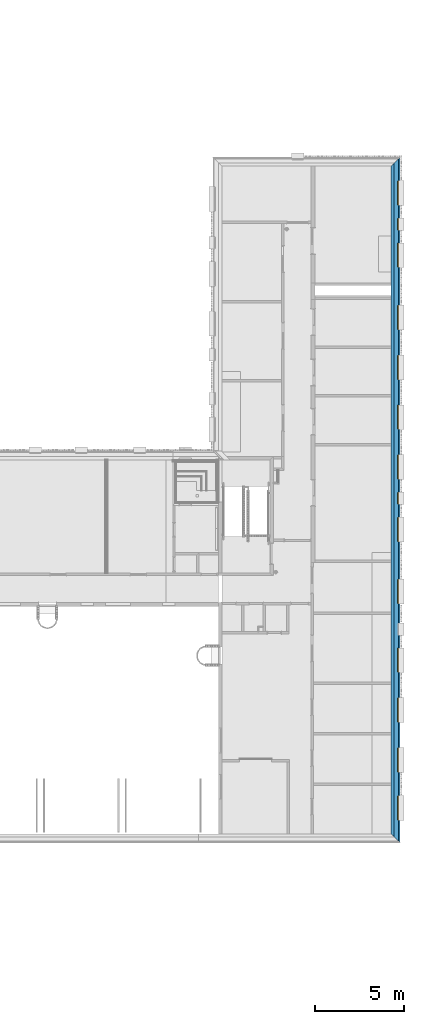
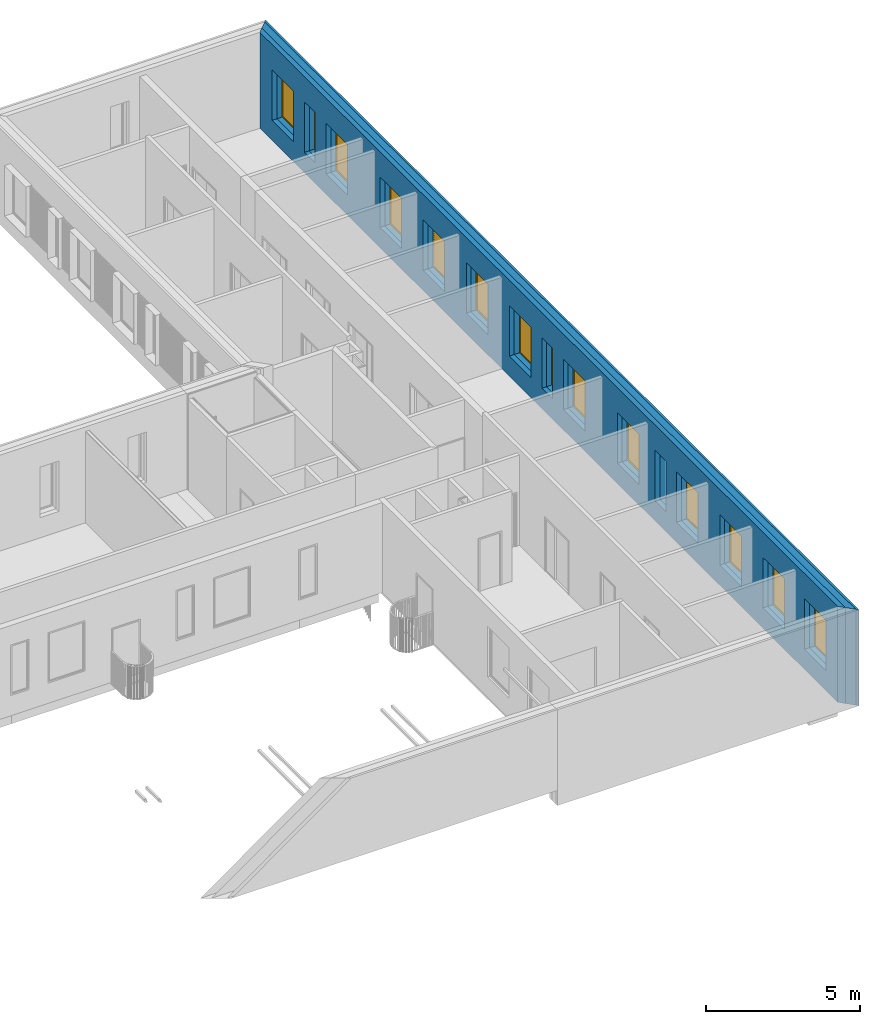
# One storey, part 40 of 100: 14 windows, 3 building element parts, 15 openings, 1 element without a shape of its own.
"""IFC2X3 building model written with IfcOpenShell, lengths in millimetres."""

from ifc_helpers import new_model, entity, si_unit, converted_unit, derived_unit, money_unit, direction, frame, origin_with_axes, origin_2d_with_axis, place, context, subcontext, project, spatial, polyline, rectangle, outline, extrude, open_shell, faceted_brep, surface_model, source, transform, mapped, material, type_object, element, fill, aggregate, save


model = new_model("IFC2X3")

# Units and contexts
model_context = context("Model", 3, precision=0.01, world=origin_with_axes(), true_north=direction((0.0, 1.0)))
body_context = subcontext(model_context, "Body", "Model", "MODEL_VIEW")
ifc_project = project(units=[si_unit("LENGTHUNIT", "METRE", prefix="MILLI"), si_unit("AREAUNIT", "SQUARE_METRE"), si_unit("VOLUMEUNIT", "CUBIC_METRE"), converted_unit("PLANEANGLEUNIT", "DEGREE", entity("IfcPlaneAngleMeasure", 0.0174532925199), si_unit("PLANEANGLEUNIT", "RADIAN"), dimensions=[0, 0, 0, 0, 0, 0, 0]), si_unit("SOLIDANGLEUNIT", "STERADIAN"), money_unit("EUR"), converted_unit("TIMEUNIT", "Year", entity("IfcTimeMeasure", 31556926.0), si_unit("TIMEUNIT", "SECOND"), dimensions=[0, 0, 1, 0, 0, 0, 0]), si_unit("MASSUNIT", "GRAM", prefix="KILO"), si_unit("THERMODYNAMICTEMPERATUREUNIT", "DEGREE_CELSIUS"), si_unit("LUMINOUSINTENSITYUNIT", "LUMEN"), si_unit("ENERGYUNIT", "JOULE", prefix="MEGA"), derived_unit("THERMALCONDUCTANCEUNIT", [(si_unit("POWERUNIT", "WATT"), 1), (si_unit("LENGTHUNIT", "METRE"), -1), (si_unit("THERMODYNAMICTEMPERATUREUNIT", "KELVIN"), -1)]), derived_unit("SPECIFICHEATCAPACITYUNIT", [(si_unit("ENERGYUNIT", "JOULE"), 1), (si_unit("MASSUNIT", "GRAM", prefix="KILO"), -1), (si_unit("THERMODYNAMICTEMPERATUREUNIT", "KELVIN"), -1)]), derived_unit("MASSDENSITYUNIT", [(si_unit("MASSUNIT", "GRAM", prefix="KILO"), 1), (si_unit("VOLUMEUNIT", "CUBIC_METRE"), -1)])], contexts=[model_context])

# Site, building, storey
site_placement = place(None, origin_with_axes())
site = spatial("IfcSite", under=ifc_project, at=site_placement, Name="Politse- ja Piirivalveameti ning Päästeameti ühishoone", CompositionType="ELEMENT")
building_placement = place(site_placement, origin_with_axes())
building = spatial("IfcBuilding", under=site, at=building_placement, Name="Politse- ja Piirivalveameti ning Päästeameti ühishoone", CompositionType="ELEMENT")
storey_placement = place(building_placement, frame((0.0, 0.0, 3800.0), z_axis=(0.0, 0.0, 1.0), x_axis=(1.0, 0.0, 0.0)))
storey = spatial("IfcBuildingStorey", under=building, at=storey_placement, Name="Teine korrus", CompositionType="ELEMENT", Elevation=3800.0)

# Window
window_style_1 = type_object("IfcWindowStyle", Name="Window 23", ConstructionType="NOTDEFINED", OperationType="SINGLE_PANEL", ParameterTakesPrecedence=False, Sizeable=False)
shared_shape_1 = source(origin_with_axes(), body_context, "Body", "SurfaceModel", [
    faceted_brep([(-675.0, 0.0, 1950.0), (-700.0, 0.0, 1950.0), (-700.0, -50.0, 1950.0), (-650.0, -50.0, 1950.0), (-650.0, -25.0, 1950.0), (-675.0, -25.0, 1950.0), (-675.0, 0.0, 50.0), (-700.0, 0.0, 50.0), (-700.0, -50.0, 50.0), (-650.0, -50.0, 50.0), (-650.0, -25.0, 50.0), (-675.0, -25.0, 50.0)], [[[0, 1, 2, 3, 4, 5]], [[6, 7, 1, 0]], [[1, 7, 8, 2]], [[2, 8, 9, 3]], [[4, 3, 9, 10]], [[10, 11, 5, 4]], [[5, 11, 6, 0]], [[11, 10, 9, 8, 7, 6]]]),
    faceted_brep([(650.0, -25.0, 1950.0), (650.0, -50.0, 1950.0), (700.0, -50.0, 1950.0), (700.0, 0.0, 1950.0), (675.0, 0.0, 1950.0), (675.0, -25.0, 1950.0), (650.0, -25.0, 50.0), (650.0, -50.0, 50.0), (700.0, -50.0, 50.0), (700.0, 0.0, 50.0), (675.0, 0.0, 50.0), (675.0, -25.0, 50.0)], [[[0, 1, 2, 3, 4, 5]], [[6, 7, 1, 0]], [[8, 2, 1, 7]], [[9, 3, 2, 8]], [[4, 3, 9, 10]], [[10, 11, 5, 4]], [[5, 11, 6, 0]], [[11, 10, 9, 8, 7, 6]]]),
    faceted_brep([(650.0, -25.0, 50.0), (650.0, -50.0, 50.0), (700.0, -50.0, 50.0), (700.0, 0.0, 50.0), (675.0, 0.0, 50.0), (675.0, -25.0, 50.0), (-650.0, -25.0, 50.0), (-650.0, -50.0, 50.0), (-700.0, -50.0, 50.0), (-700.0, -50.0, 0.0), (700.0, -50.0, 0.0), (700.0, 0.0, 0.0), (-675.0, 0.0, 25.0), (675.0, 0.0, 25.0), (-700.0, 0.0, 0.0), (-700.0, 0.0, 50.0), (-675.0, 0.0, 50.0), (675.0, -25.0, 25.0), (-675.0, -25.0, 25.0), (-675.0, -25.0, 50.0)], [[[0, 1, 2, 3, 4, 5]], [[6, 7, 1, 0]], [[8, 9, 10, 2, 1, 7]], [[11, 3, 2, 10]], [[12, 13, 4, 3, 11, 14, 15, 16]], [[13, 17, 5, 4]], [[5, 17, 18, 19, 6, 0]], [[19, 16, 15, 8, 7, 6]], [[15, 14, 9, 8]], [[14, 11, 10, 9]], [[12, 18, 17, 13]], [[19, 18, 12, 16]]]),
    faceted_brep([(-675.0, 0.0, 1950.0), (-700.0, 0.0, 1950.0), (-700.0, 0.0, 2000.0), (700.0, 0.0, 2000.0), (700.0, 0.0, 1950.0), (675.0, 0.0, 1950.0), (675.0, 0.0, 1975.0), (-675.0, 0.0, 1975.0), (-675.0, -25.0, 1950.0), (-650.0, -25.0, 1950.0), (-650.0, -50.0, 1950.0), (-700.0, -50.0, 1950.0), (-700.0, -50.0, 2000.0), (700.0, -50.0, 2000.0), (700.0, -50.0, 1950.0), (675.0, -25.0, 1950.0), (650.0, -50.0, 1950.0), (650.0, -25.0, 1950.0), (675.0, -25.0, 1975.0), (-675.0, -25.0, 1975.0)], [[[0, 1, 2, 3, 4, 5, 6, 7]], [[8, 9, 10, 11, 1, 0]], [[2, 1, 11, 12]], [[3, 2, 12, 13]], [[4, 3, 13, 14]], [[15, 5, 4, 14, 16, 17]], [[5, 15, 18, 6]], [[6, 18, 19, 7]], [[7, 19, 8, 0]], [[17, 9, 8, 19, 18, 15]], [[17, 16, 10, 9]], [[14, 13, 12, 11, 10, 16]]]),
    faceted_brep([(-625.0, -25.0, 1925.0), (-625.0, 25.0, 1925.0), (-675.0, 25.0, 1925.0), (-675.0, -25.0, 1925.0), (-625.0, -25.0, 75.0), (-625.0, 25.0, 75.0), (-675.0, 25.0, 75.0), (-675.0, -25.0, 75.0)], [[[0, 1, 2, 3]], [[4, 5, 1, 0]], [[1, 5, 6, 2]], [[3, 2, 6, 7]], [[0, 3, 7, 4]], [[7, 6, 5, 4]]]),
    faceted_brep([(625.0, -25.0, 75.0), (625.0, 25.0, 75.0), (675.0, 25.0, 75.0), (675.0, -25.0, 75.0), (625.0, -25.0, 1925.0), (625.0, 25.0, 1925.0), (675.0, 25.0, 1925.0), (675.0, -25.0, 1925.0)], [[[0, 1, 2, 3]], [[4, 5, 1, 0]], [[1, 5, 6, 2]], [[3, 2, 6, 7]], [[0, 3, 7, 4]], [[7, 6, 5, 4]]]),
    faceted_brep([(675.0, -25.0, 25.0), (675.0, 25.0, 25.0), (675.0, 25.0, 75.0), (675.0, -25.0, 75.0), (-675.0, -25.0, 25.0), (-675.0, 25.0, 25.0), (-675.0, 25.0, 75.0), (-625.0, 25.0, 75.0), (625.0, 25.0, 75.0), (625.0, -25.0, 75.0), (-625.0, -25.0, 75.0), (-675.0, -25.0, 75.0)], [[[0, 1, 2, 3]], [[4, 5, 1, 0]], [[1, 5, 6, 7, 8, 2]], [[3, 2, 8, 9]], [[0, 3, 9, 10, 11, 4]], [[11, 6, 5, 4]], [[10, 7, 6, 11]], [[9, 8, 7, 10]]]),
    faceted_brep([(-675.0, -25.0, 1975.0), (-675.0, 25.0, 1975.0), (-675.0, 25.0, 1925.0), (-675.0, -25.0, 1925.0), (675.0, -25.0, 1975.0), (675.0, 25.0, 1975.0), (675.0, 25.0, 1925.0), (625.0, 25.0, 1925.0), (-625.0, 25.0, 1925.0), (-625.0, -25.0, 1925.0), (625.0, -25.0, 1925.0), (675.0, -25.0, 1925.0)], [[[0, 1, 2, 3]], [[4, 5, 1, 0]], [[1, 5, 6, 7, 8, 2]], [[3, 2, 8, 9]], [[0, 3, 9, 10, 11, 4]], [[11, 6, 5, 4]], [[10, 7, 6, 11]], [[9, 8, 7, 10]]]),
    surface_model("IfcShellBasedSurfaceModel", [(-625.0, -10.0, 75.0), (625.0, -10.0, 75.0), (625.0, -10.0, 1925.0), (-625.0, -10.0, 1925.0)], [open_shell([[[0, 1, 2, 3]]])]),
    surface_model("IfcShellBasedSurfaceModel", [(-625.0, 10.0, 75.0), (-625.0, 10.0, 1925.0), (625.0, 10.0, 1925.0), (625.0, 10.0, 75.0)], [open_shell([[[0, 1, 2, 3]]])]),
])
wall_placement = place(storey_placement, frame((69660.5664257, 37499.9521318, 0.0), z_axis=(0.0, 0.0, 1.0), x_axis=(0.0, -1.0, 0.0)))
opening_1_placement = place(wall_placement, frame((8499.88188769, 0.0, 800.0), z_axis=(0.0, 0.0, 1.0), x_axis=(1.0, 0.0, 0.0)))
window_1_placement = place(opening_1_placement, frame((700.0, 0.0, 0.0), z_axis=(0.0, 0.0, 1.0), x_axis=(-1.0, 0.0, 0.0)))
window_1 = element("IfcWindow", 1, at=window_1_placement, inside=storey, type_object=window_style_1, Name="A-02", ObjectType="WINDOW", OverallHeight=2000.0, OverallWidth=1400.0, context=body_context, shape_type="MappedRepresentation", body=[
    mapped(shared_shape_1, transform((700.0, -380.0, 0.0))),
])

opening_2_placement = place(wall_placement, frame((11299.8818877, 0.0, 800.0), z_axis=(0.0, 0.0, 1.0), x_axis=(1.0, 0.0, 0.0)))
window_2_placement = place(opening_2_placement, frame((700.0, 0.0, 0.0), z_axis=(0.0, 0.0, 1.0), x_axis=(-1.0, 0.0, 0.0)))
window_2 = element("IfcWindow", 2, at=window_2_placement, inside=storey, type_object=window_style_1, Name="A-02", ObjectType="WINDOW", OverallHeight=2000.0, OverallWidth=1400.0, context=body_context, shape_type="MappedRepresentation", body=[
    mapped(shared_shape_1, transform((700.0, -380.0, 0.0))),
])

opening_3_placement = place(wall_placement, frame((16899.8818877, 0.0, 800.0), z_axis=(0.0, 0.0, 1.0), x_axis=(1.0, 0.0, 0.0)))
window_3_placement = place(opening_3_placement, frame((700.0, 0.0, 0.0), z_axis=(0.0, 0.0, 1.0), x_axis=(-1.0, 0.0, 0.0)))
window_3 = element("IfcWindow", 3, at=window_3_placement, inside=storey, type_object=window_style_1, Name="A-02", ObjectType="WINDOW", OverallHeight=2000.0, OverallWidth=1400.0, context=body_context, shape_type="MappedRepresentation", body=[
    mapped(shared_shape_1, transform((700.0, -380.0, 0.0))),
])

opening_4_placement = place(wall_placement, frame((14099.8818877, 0.0, 800.0), z_axis=(0.0, 0.0, 1.0), x_axis=(1.0, 0.0, 0.0)))
window_4_placement = place(opening_4_placement, frame((700.0, 0.0, 0.0), z_axis=(0.0, 0.0, 1.0), x_axis=(-1.0, 0.0, 0.0)))
window_4 = element("IfcWindow", 4, at=window_4_placement, inside=storey, type_object=window_style_1, Name="A-02", ObjectType="WINDOW", OverallHeight=2000.0, OverallWidth=1400.0, context=body_context, shape_type="MappedRepresentation", body=[
    mapped(shared_shape_1, transform((700.0, -380.0, 0.0))),
])

opening_5_placement = place(wall_placement, frame((23900.0000486, 0.0, 800.0), z_axis=(0.0, 0.0, 1.0), x_axis=(1.0, 0.0, 0.0)))
window_5_placement = place(opening_5_placement, frame((700.0, 0.0, 0.0), z_axis=(0.0, 0.0, 1.0), x_axis=(-1.0, 0.0, 0.0)))
window_5 = element("IfcWindow", 5, at=window_5_placement, inside=storey, type_object=window_style_1, Name="A-02", ObjectType="WINDOW", OverallHeight=2000.0, OverallWidth=1400.0, context=body_context, shape_type="MappedRepresentation", body=[
    mapped(shared_shape_1, transform((700.0, -380.0, 0.0))),
])

opening_6_placement = place(wall_placement, frame((27750.0000486, 0.0, 800.0), z_axis=(0.0, 0.0, 1.0), x_axis=(1.0, 0.0, 0.0)))
window_6_placement = place(opening_6_placement, frame((700.0, 0.0, 0.0), z_axis=(0.0, 0.0, 1.0), x_axis=(-1.0, 0.0, 0.0)))
window_6 = element("IfcWindow", 6, at=window_6_placement, inside=storey, type_object=window_style_1, Name="A-02", ObjectType="WINDOW", OverallHeight=2000.0, OverallWidth=1400.0, context=body_context, shape_type="MappedRepresentation", body=[
    mapped(shared_shape_1, transform((700.0, -380.0, 0.0))),
])

opening_7_placement = place(wall_placement, frame((30550.0000486, 0.0, 800.0), z_axis=(0.0, 0.0, 1.0), x_axis=(1.0, 0.0, 0.0)))
window_7_placement = place(opening_7_placement, frame((700.0, 0.0, 0.0), z_axis=(0.0, 0.0, 1.0), x_axis=(-1.0, 0.0, 0.0)))
window_7 = element("IfcWindow", 7, at=window_7_placement, inside=storey, type_object=window_style_1, Name="A-02", ObjectType="WINDOW", OverallHeight=2000.0, OverallWidth=1400.0, context=body_context, shape_type="MappedRepresentation", body=[
    mapped(shared_shape_1, transform((700.0, -380.0, 0.0))),
])

opening_8_placement = place(wall_placement, frame((36050.0000486, 0.0, 800.0), z_axis=(0.0, 0.0, 1.0), x_axis=(1.0, 0.0, 0.0)))
window_8_placement = place(opening_8_placement, frame((700.0, 0.0, 0.0), z_axis=(0.0, 0.0, 1.0), x_axis=(-1.0, 0.0, 0.0)))
window_8 = element("IfcWindow", 8, at=window_8_placement, inside=storey, type_object=window_style_1, Name="A-02", ObjectType="WINDOW", OverallHeight=2000.0, OverallWidth=1400.0, context=body_context, shape_type="MappedRepresentation", body=[
    mapped(shared_shape_1, transform((700.0, -380.0, 0.0))),
])

opening_9_placement = place(wall_placement, frame((33350.0000486, 0.0, 800.0), z_axis=(0.0, 0.0, 1.0), x_axis=(1.0, 0.0, 0.0)))
window_9_placement = place(opening_9_placement, frame((700.0, 0.0, 0.0), z_axis=(0.0, 0.0, 1.0), x_axis=(-1.0, 0.0, 0.0)))
window_9 = element("IfcWindow", 9, at=window_9_placement, inside=storey, type_object=window_style_1, Name="A-02", ObjectType="WINDOW", OverallHeight=2000.0, OverallWidth=1400.0, context=body_context, shape_type="MappedRepresentation", body=[
    mapped(shared_shape_1, transform((700.0, -380.0, 0.0))),
])

opening_10_placement = place(wall_placement, frame((4999.88188769, 0.0, 800.0), z_axis=(0.0, 0.0, 1.0), x_axis=(1.0, 0.0, 0.0)))
window_10_placement = place(opening_10_placement, frame((700.0, 0.0, 0.0), z_axis=(0.0, 0.0, 1.0), x_axis=(-1.0, 0.0, 0.0)))
window_10 = element("IfcWindow", 10, at=window_10_placement, inside=storey, type_object=window_style_1, Name="A-02", ObjectType="WINDOW", OverallHeight=2000.0, OverallWidth=1400.0, context=body_context, shape_type="MappedRepresentation", body=[
    mapped(shared_shape_1, transform((700.0, -380.0, 0.0))),
])

opening_12_placement = place(wall_placement, frame((1500.00004858, 0.0, 800.0), z_axis=(0.0, 0.0, 1.0), x_axis=(1.0, 0.0, 0.0)))
window_11_placement = place(opening_12_placement, frame((700.0, 0.0, 0.0), z_axis=(0.0, 0.0, 1.0), x_axis=(-1.0, 0.0, 0.0)))
window_11 = element("IfcWindow", 11, at=window_11_placement, inside=storey, type_object=window_style_1, Name="A-02", ObjectType="WINDOW", OverallHeight=2000.0, OverallWidth=1400.0, context=body_context, shape_type="MappedRepresentation", body=[
    mapped(shared_shape_1, transform((700.0, -380.0, 0.0))),
])

opening_14_placement = place(wall_placement, frame((20400.0000486, 0.0, 800.0), z_axis=(0.0, 0.0, 1.0), x_axis=(1.0, 0.0, 0.0)))
window_12_placement = place(opening_14_placement, frame((700.0, 0.0, 0.0), z_axis=(0.0, 0.0, 1.0), x_axis=(-1.0, 0.0, 0.0)))
window_12 = element("IfcWindow", 12, at=window_12_placement, inside=storey, type_object=window_style_1, Name="A-02", ObjectType="WINDOW", OverallHeight=2000.0, OverallWidth=1400.0, context=body_context, shape_type="MappedRepresentation", body=[
    mapped(shared_shape_1, transform((700.0, -380.0, 0.0))),
])

window_style_2 = type_object("IfcWindowStyle", Name="Window 23", ConstructionType="NOTDEFINED", OperationType="SINGLE_PANEL", ParameterTakesPrecedence=False, Sizeable=False)
shared_shape_2 = source(origin_with_axes(), body_context, "Body", "SurfaceModel", [
    faceted_brep([(-325.0, 0.0, 1950.0), (-350.0, 0.0, 1950.0), (-350.0, -50.0, 1950.0), (-300.0, -50.0, 1950.0), (-300.0, -25.0, 1950.0), (-325.0, -25.0, 1950.0), (-325.0, 0.0, 50.0), (-350.0, 0.0, 50.0), (-350.0, -50.0, 50.0), (-300.0, -50.0, 50.0), (-300.0, -25.0, 50.0), (-325.0, -25.0, 50.0)], [[[0, 1, 2, 3, 4, 5]], [[6, 7, 1, 0]], [[1, 7, 8, 2]], [[2, 8, 9, 3]], [[4, 3, 9, 10]], [[10, 11, 5, 4]], [[5, 11, 6, 0]], [[11, 10, 9, 8, 7, 6]]]),
    faceted_brep([(300.0, -25.0, 1950.0), (300.0, -50.0, 1950.0), (350.0, -50.0, 1950.0), (350.0, 0.0, 1950.0), (325.0, 0.0, 1950.0), (325.0, -25.0, 1950.0), (300.0, -25.0, 50.0), (300.0, -50.0, 50.0), (350.0, -50.0, 50.0), (350.0, 0.0, 50.0), (325.0, 0.0, 50.0), (325.0, -25.0, 50.0)], [[[0, 1, 2, 3, 4, 5]], [[6, 7, 1, 0]], [[8, 2, 1, 7]], [[9, 3, 2, 8]], [[4, 3, 9, 10]], [[10, 11, 5, 4]], [[5, 11, 6, 0]], [[11, 10, 9, 8, 7, 6]]]),
    faceted_brep([(300.0, -25.0, 50.0), (300.0, -50.0, 50.0), (350.0, -50.0, 50.0), (350.0, 0.0, 50.0), (325.0, 0.0, 50.0), (325.0, -25.0, 50.0), (-300.0, -25.0, 50.0), (-300.0, -50.0, 50.0), (-350.0, -50.0, 50.0), (-350.0, -50.0, 0.0), (350.0, -50.0, 0.0), (350.0, 0.0, 0.0), (-325.0, 0.0, 25.0), (325.0, 0.0, 25.0), (-350.0, 0.0, 0.0), (-350.0, 0.0, 50.0), (-325.0, 0.0, 50.0), (325.0, -25.0, 25.0), (-325.0, -25.0, 25.0), (-325.0, -25.0, 50.0)], [[[0, 1, 2, 3, 4, 5]], [[6, 7, 1, 0]], [[8, 9, 10, 2, 1, 7]], [[11, 3, 2, 10]], [[12, 13, 4, 3, 11, 14, 15, 16]], [[13, 17, 5, 4]], [[5, 17, 18, 19, 6, 0]], [[19, 16, 15, 8, 7, 6]], [[15, 14, 9, 8]], [[14, 11, 10, 9]], [[12, 18, 17, 13]], [[19, 18, 12, 16]]]),
    faceted_brep([(-325.0, 0.0, 1950.0), (-350.0, 0.0, 1950.0), (-350.0, 0.0, 2000.0), (350.0, 0.0, 2000.0), (350.0, 0.0, 1950.0), (325.0, 0.0, 1950.0), (325.0, 0.0, 1975.0), (-325.0, 0.0, 1975.0), (-325.0, -25.0, 1950.0), (-300.0, -25.0, 1950.0), (-300.0, -50.0, 1950.0), (-350.0, -50.0, 1950.0), (-350.0, -50.0, 2000.0), (350.0, -50.0, 2000.0), (350.0, -50.0, 1950.0), (325.0, -25.0, 1950.0), (300.0, -50.0, 1950.0), (300.0, -25.0, 1950.0), (325.0, -25.0, 1975.0), (-325.0, -25.0, 1975.0)], [[[0, 1, 2, 3, 4, 5, 6, 7]], [[8, 9, 10, 11, 1, 0]], [[2, 1, 11, 12]], [[3, 2, 12, 13]], [[4, 3, 13, 14]], [[15, 5, 4, 14, 16, 17]], [[5, 15, 18, 6]], [[6, 18, 19, 7]], [[7, 19, 8, 0]], [[17, 9, 8, 19, 18, 15]], [[17, 16, 10, 9]], [[14, 13, 12, 11, 10, 16]]]),
    faceted_brep([(-275.0, -25.0, 1925.0), (-275.0, 25.0, 1925.0), (-325.0, 25.0, 1925.0), (-325.0, -25.0, 1925.0), (-275.0, -25.0, 75.0), (-275.0, 25.0, 75.0), (-325.0, 25.0, 75.0), (-325.0, -25.0, 75.0)], [[[0, 1, 2, 3]], [[4, 5, 1, 0]], [[1, 5, 6, 2]], [[3, 2, 6, 7]], [[0, 3, 7, 4]], [[7, 6, 5, 4]]]),
    faceted_brep([(275.0, -25.0, 75.0), (275.0, 25.0, 75.0), (325.0, 25.0, 75.0), (325.0, -25.0, 75.0), (275.0, -25.0, 1925.0), (275.0, 25.0, 1925.0), (325.0, 25.0, 1925.0), (325.0, -25.0, 1925.0)], [[[0, 1, 2, 3]], [[4, 5, 1, 0]], [[1, 5, 6, 2]], [[3, 2, 6, 7]], [[0, 3, 7, 4]], [[7, 6, 5, 4]]]),
    faceted_brep([(325.0, -25.0, 25.0), (325.0, 25.0, 25.0), (325.0, 25.0, 75.0), (325.0, -25.0, 75.0), (-325.0, -25.0, 25.0), (-325.0, 25.0, 25.0), (-325.0, 25.0, 75.0), (-275.0, 25.0, 75.0), (275.0, 25.0, 75.0), (275.0, -25.0, 75.0), (-275.0, -25.0, 75.0), (-325.0, -25.0, 75.0)], [[[0, 1, 2, 3]], [[4, 5, 1, 0]], [[1, 5, 6, 7, 8, 2]], [[3, 2, 8, 9]], [[0, 3, 9, 10, 11, 4]], [[11, 6, 5, 4]], [[10, 7, 6, 11]], [[9, 8, 7, 10]]]),
    faceted_brep([(-325.0, -25.0, 1975.0), (-325.0, 25.0, 1975.0), (-325.0, 25.0, 1925.0), (-325.0, -25.0, 1925.0), (325.0, -25.0, 1975.0), (325.0, 25.0, 1975.0), (325.0, 25.0, 1925.0), (275.0, 25.0, 1925.0), (-275.0, 25.0, 1925.0), (-275.0, -25.0, 1925.0), (275.0, -25.0, 1925.0), (325.0, -25.0, 1925.0)], [[[0, 1, 2, 3]], [[4, 5, 1, 0]], [[1, 5, 6, 7, 8, 2]], [[3, 2, 8, 9]], [[0, 3, 9, 10, 11, 4]], [[11, 6, 5, 4]], [[10, 7, 6, 11]], [[9, 8, 7, 10]]]),
    surface_model("IfcShellBasedSurfaceModel", [(-275.0, -10.0, 75.0), (275.0, -10.0, 75.0), (275.0, -10.0, 1925.0), (-275.0, -10.0, 1925.0)], [open_shell([[[0, 1, 2, 3]]])]),
    surface_model("IfcShellBasedSurfaceModel", [(-275.0, 10.0, 75.0), (-275.0, 10.0, 1925.0), (275.0, 10.0, 1925.0), (275.0, 10.0, 75.0)], [open_shell([[[0, 1, 2, 3]]])]),
])
opening_11_placement = place(wall_placement, frame((3250.00004858, 0.0, 800.0), z_axis=(0.0, 0.0, 1.0), x_axis=(1.0, 0.0, 0.0)))
window_13_placement = place(opening_11_placement, frame((350.0, 0.0, 0.0), z_axis=(0.0, 0.0, 1.0), x_axis=(-1.0, 0.0, 0.0)))
window_13 = element("IfcWindow", 13, at=window_13_placement, inside=storey, type_object=window_style_2, Name="A-01", ObjectType="WINDOW", OverallHeight=2000.0, OverallWidth=700.0, context=body_context, shape_type="MappedRepresentation", body=[
    mapped(shared_shape_2, transform((350.0, -380.0, 0.0))),
])

opening_15_placement = place(wall_placement, frame((18650.0000486, 0.0, 800.0), z_axis=(0.0, 0.0, 1.0), x_axis=(1.0, 0.0, 0.0)))
window_14_placement = place(opening_15_placement, frame((350.0, 0.0, 0.0), z_axis=(0.0, 0.0, 1.0), x_axis=(-1.0, 0.0, 0.0)))
window_14 = element("IfcWindow", 14, at=window_14_placement, inside=storey, type_object=window_style_2, Name="A-01", ObjectType="WINDOW", OverallHeight=2000.0, OverallWidth=700.0, context=body_context, shape_type="MappedRepresentation", body=[
    mapped(shared_shape_2, transform((350.0, -380.0, 0.0))),
])

# Wall, opening
wall_type = type_object("IfcWallType", Name="VS-01_välissein 510", PredefinedType="NOTDEFINED")
wall = element("IfcWall", 15, at=wall_placement, inside=storey, type_object=wall_type, Name="VS-01")
opening_1 = element("IfcOpeningElement", 16, at=opening_1_placement, cuts=wall, Name="A-02", context=body_context, shape_type="SweptSolid", body=[
    extrude(rectangle(XDim=1400.0, YDim=2000.0, at=origin_2d_with_axis()), frame((0.0, 430.0, 1000.0), z_axis=(0.0, 1.0, 0.0), x_axis=(-1.0, 0.0, 0.0)), (0.0, 0.0, -1.0), 940.0),
    extrude(rectangle(XDim=1400.0, YDim=2000.0, at=origin_2d_with_axis()), frame((0.0, 430.0, 1000.0), z_axis=(0.0, -1.0, 0.0), x_axis=(-1.0, 0.0, 0.0)), (0.0, 0.0, -1.0), 590.0),
])

fill(opening_1, window_1)

# Opening
opening_2 = element("IfcOpeningElement", 17, at=opening_2_placement, cuts=wall, Name="A-02", context=body_context, shape_type="SweptSolid", body=[
    extrude(rectangle(XDim=1400.0, YDim=2000.0, at=origin_2d_with_axis()), frame((0.0, 430.0, 1000.0), z_axis=(0.0, 1.0, 0.0), x_axis=(-1.0, 0.0, 0.0)), (0.0, 0.0, -1.0), 940.0),
    extrude(rectangle(XDim=1400.0, YDim=2000.0, at=origin_2d_with_axis()), frame((0.0, 430.0, 1000.0), z_axis=(0.0, -1.0, 0.0), x_axis=(-1.0, 0.0, 0.0)), (0.0, 0.0, -1.0), 590.0),
])

fill(opening_2, window_2)

opening_3 = element("IfcOpeningElement", 18, at=opening_3_placement, cuts=wall, Name="A-02", context=body_context, shape_type="SweptSolid", body=[
    extrude(rectangle(XDim=1400.0, YDim=2000.0, at=origin_2d_with_axis()), frame((0.0, 430.0, 1000.0), z_axis=(0.0, 1.0, 0.0), x_axis=(-1.0, 0.0, 0.0)), (0.0, 0.0, -1.0), 940.0),
    extrude(rectangle(XDim=1400.0, YDim=2000.0, at=origin_2d_with_axis()), frame((0.0, 430.0, 1000.0), z_axis=(0.0, -1.0, 0.0), x_axis=(-1.0, 0.0, 0.0)), (0.0, 0.0, -1.0), 590.0),
])

fill(opening_3, window_3)

opening_4 = element("IfcOpeningElement", 19, at=opening_4_placement, cuts=wall, Name="A-02", context=body_context, shape_type="SweptSolid", body=[
    extrude(rectangle(XDim=1400.0, YDim=2000.0, at=origin_2d_with_axis()), frame((0.0, 430.0, 1000.0), z_axis=(0.0, 1.0, 0.0), x_axis=(-1.0, 0.0, 0.0)), (0.0, 0.0, -1.0), 940.0),
    extrude(rectangle(XDim=1400.0, YDim=2000.0, at=origin_2d_with_axis()), frame((0.0, 430.0, 1000.0), z_axis=(0.0, -1.0, 0.0), x_axis=(-1.0, 0.0, 0.0)), (0.0, 0.0, -1.0), 590.0),
])

fill(opening_4, window_4)

opening_5 = element("IfcOpeningElement", 20, at=opening_5_placement, cuts=wall, Name="A-02", context=body_context, shape_type="SweptSolid", body=[
    extrude(rectangle(XDim=1400.0, YDim=2000.0, at=origin_2d_with_axis()), frame((0.0, 430.0, 1000.0), z_axis=(0.0, 1.0, 0.0), x_axis=(-1.0, 0.0, 0.0)), (0.0, 0.0, -1.0), 940.0),
    extrude(rectangle(XDim=1400.0, YDim=2000.0, at=origin_2d_with_axis()), frame((0.0, 430.0, 1000.0), z_axis=(0.0, -1.0, 0.0), x_axis=(-1.0, 0.0, 0.0)), (0.0, 0.0, -1.0), 590.0),
])

fill(opening_5, window_5)

opening_6 = element("IfcOpeningElement", 21, at=opening_6_placement, cuts=wall, Name="A-02", context=body_context, shape_type="SweptSolid", body=[
    extrude(rectangle(XDim=1400.0, YDim=2000.0, at=origin_2d_with_axis()), frame((0.0, 430.0, 1000.0), z_axis=(0.0, 1.0, 0.0), x_axis=(-1.0, 0.0, 0.0)), (0.0, 0.0, -1.0), 940.0),
    extrude(rectangle(XDim=1400.0, YDim=2000.0, at=origin_2d_with_axis()), frame((0.0, 430.0, 1000.0), z_axis=(0.0, -1.0, 0.0), x_axis=(-1.0, 0.0, 0.0)), (0.0, 0.0, -1.0), 590.0),
])

fill(opening_6, window_6)

opening_7 = element("IfcOpeningElement", 22, at=opening_7_placement, cuts=wall, Name="A-02", context=body_context, shape_type="SweptSolid", body=[
    extrude(rectangle(XDim=1400.0, YDim=2000.0, at=origin_2d_with_axis()), frame((0.0, 430.0, 1000.0), z_axis=(0.0, 1.0, 0.0), x_axis=(-1.0, 0.0, 0.0)), (0.0, 0.0, -1.0), 940.0),
    extrude(rectangle(XDim=1400.0, YDim=2000.0, at=origin_2d_with_axis()), frame((0.0, 430.0, 1000.0), z_axis=(0.0, -1.0, 0.0), x_axis=(-1.0, 0.0, 0.0)), (0.0, 0.0, -1.0), 590.0),
])

fill(opening_7, window_7)

opening_8 = element("IfcOpeningElement", 23, at=opening_8_placement, cuts=wall, Name="A-02", context=body_context, shape_type="SweptSolid", body=[
    extrude(rectangle(XDim=1400.0, YDim=2000.0, at=origin_2d_with_axis()), frame((0.0, 430.0, 1000.0), z_axis=(0.0, 1.0, 0.0), x_axis=(-1.0, 0.0, 0.0)), (0.0, 0.0, -1.0), 940.0),
    extrude(rectangle(XDim=1400.0, YDim=2000.0, at=origin_2d_with_axis()), frame((0.0, 430.0, 1000.0), z_axis=(0.0, -1.0, 0.0), x_axis=(-1.0, 0.0, 0.0)), (0.0, 0.0, -1.0), 590.0),
])

fill(opening_8, window_8)

opening_9 = element("IfcOpeningElement", 24, at=opening_9_placement, cuts=wall, Name="A-02", context=body_context, shape_type="SweptSolid", body=[
    extrude(rectangle(XDim=1400.0, YDim=2000.0, at=origin_2d_with_axis()), frame((0.0, 430.0, 1000.0), z_axis=(0.0, 1.0, 0.0), x_axis=(-1.0, 0.0, 0.0)), (0.0, 0.0, -1.0), 940.0),
    extrude(rectangle(XDim=1400.0, YDim=2000.0, at=origin_2d_with_axis()), frame((0.0, 430.0, 1000.0), z_axis=(0.0, -1.0, 0.0), x_axis=(-1.0, 0.0, 0.0)), (0.0, 0.0, -1.0), 590.0),
])

fill(opening_9, window_9)

opening_10 = element("IfcOpeningElement", 25, at=opening_10_placement, cuts=wall, Name="A-02", context=body_context, shape_type="SweptSolid", body=[
    extrude(rectangle(XDim=1400.0, YDim=2000.0, at=origin_2d_with_axis()), frame((0.0, 430.0, 1000.0), z_axis=(0.0, 1.0, 0.0), x_axis=(-1.0, 0.0, 0.0)), (0.0, 0.0, -1.0), 940.0),
    extrude(rectangle(XDim=1400.0, YDim=2000.0, at=origin_2d_with_axis()), frame((0.0, 430.0, 1000.0), z_axis=(0.0, -1.0, 0.0), x_axis=(-1.0, 0.0, 0.0)), (0.0, 0.0, -1.0), 590.0),
])

fill(opening_10, window_10)

opening_11 = element("IfcOpeningElement", 26, at=opening_11_placement, cuts=wall, Name="A-01", context=body_context, shape_type="SweptSolid", body=[
    extrude(rectangle(XDim=700.0, YDim=2000.0, at=origin_2d_with_axis()), frame((0.0, 430.0, 1000.0), z_axis=(0.0, 1.0, 0.0), x_axis=(-1.0, 0.0, 0.0)), (0.0, 0.0, -1.0), 940.0),
    extrude(rectangle(XDim=700.0, YDim=2000.0, at=origin_2d_with_axis()), frame((0.0, 430.0, 1000.0), z_axis=(0.0, -1.0, 0.0), x_axis=(-1.0, 0.0, 0.0)), (0.0, 0.0, -1.0), 590.0),
])

fill(opening_11, window_13)

opening_12 = element("IfcOpeningElement", 27, at=opening_12_placement, cuts=wall, Name="A-02", context=body_context, shape_type="SweptSolid", body=[
    extrude(rectangle(XDim=1400.0, YDim=2000.0, at=origin_2d_with_axis()), frame((0.0, 430.0, 1000.0), z_axis=(0.0, 1.0, 0.0), x_axis=(-1.0, 0.0, 0.0)), (0.0, 0.0, -1.0), 940.0),
    extrude(rectangle(XDim=1400.0, YDim=2000.0, at=origin_2d_with_axis()), frame((0.0, 430.0, 1000.0), z_axis=(0.0, -1.0, 0.0), x_axis=(-1.0, 0.0, 0.0)), (0.0, 0.0, -1.0), 590.0),
])

fill(opening_12, window_11)

opening_13_placement = place(wall_placement, frame((26000.0000486, 0.0, 800.0), z_axis=(0.0, 0.0, 1.0), x_axis=(1.0, 0.0, 0.0)))
element("IfcOpeningElement", 28, at=opening_13_placement, cuts=wall, Name="A-01", context=body_context, shape_type="SweptSolid", body=[
    extrude(rectangle(XDim=700.0, YDim=2000.0, at=origin_2d_with_axis()), frame((0.0, 430.0, 1000.0), z_axis=(0.0, 1.0, 0.0), x_axis=(-1.0, 0.0, 0.0)), (0.0, 0.0, -1.0), 940.0),
    extrude(rectangle(XDim=700.0, YDim=2000.0, at=origin_2d_with_axis()), frame((0.0, 430.0, 1000.0), z_axis=(0.0, -1.0, 0.0), x_axis=(-1.0, 0.0, 0.0)), (0.0, 0.0, -1.0), 590.0),
])

opening_14 = element("IfcOpeningElement", 29, at=opening_14_placement, cuts=wall, Name="A-02", context=body_context, shape_type="SweptSolid", body=[
    extrude(rectangle(XDim=1400.0, YDim=2000.0, at=origin_2d_with_axis()), frame((0.0, 430.0, 1000.0), z_axis=(0.0, 1.0, 0.0), x_axis=(-1.0, 0.0, 0.0)), (0.0, 0.0, -1.0), 940.0),
    extrude(rectangle(XDim=1400.0, YDim=2000.0, at=origin_2d_with_axis()), frame((0.0, 430.0, 1000.0), z_axis=(0.0, -1.0, 0.0), x_axis=(-1.0, 0.0, 0.0)), (0.0, 0.0, -1.0), 590.0),
])

fill(opening_14, window_12)

opening_15 = element("IfcOpeningElement", 30, at=opening_15_placement, cuts=wall, Name="A-01", context=body_context, shape_type="SweptSolid", body=[
    extrude(rectangle(XDim=700.0, YDim=2000.0, at=origin_2d_with_axis()), frame((0.0, 430.0, 1000.0), z_axis=(0.0, 1.0, 0.0), x_axis=(-1.0, 0.0, 0.0)), (0.0, 0.0, -1.0), 940.0),
    extrude(rectangle(XDim=700.0, YDim=2000.0, at=origin_2d_with_axis()), frame((0.0, 430.0, 1000.0), z_axis=(0.0, -1.0, 0.0), x_axis=(-1.0, 0.0, 0.0)), (0.0, 0.0, -1.0), 590.0),
])

fill(opening_15, window_14)

# Building element part
ifc_material_1 = material(Name="KON-04_Betoon - Konstuktsioon")
building_element_part_1_placement = place(wall_placement, origin_with_axes())
building_element_part_1 = element("IfcBuildingElementPart", 31, at=building_element_part_1_placement, material=ifc_material_1, Name="KON-04_Betoon - Konstuktsioon", context=body_context, shape_type="SweptSolid", body=[
    extrude(outline(polyline([(0.0, 0.0), (37499.9521318, 0.0), (37679.9521318, 180.0), (-180.0, 180.0), (0.0, 0.0)])), origin_with_axes(), (0.0, 0.0, 1.0), 3800.0),
])

ifc_material_2 = material(Name="SOJ-06_Soojustus - Plastik Kõva")
building_element_part_2_placement = place(wall_placement, origin_with_axes())
building_element_part_2 = element("IfcBuildingElementPart", 32, at=building_element_part_2_placement, material=ifc_material_2, Name="SOJ-06_Soojustus - Plastik Kõva", context=body_context, shape_type="SweptSolid", body=[
    extrude(outline(polyline([(-180.0, 180.0), (37679.9521318, 180.0), (37929.9521318, 430.0), (-430.0, 430.0), (-180.0, 180.0)])), origin_with_axes(), (0.0, 0.0, 1.0), 3800.0),
])

building_element_part_3_placement = place(wall_placement, origin_with_axes())
building_element_part_3 = element("IfcBuildingElementPart", 33, at=building_element_part_3_placement, material=ifc_material_1, Name="KON-04_Betoon - Konstuktsioon", context=body_context, shape_type="SweptSolid", body=[
    extrude(outline(polyline([(-430.0, 430.0), (37929.9521318, 430.0), (38009.9521318, 510.0), (-510.0, 510.0), (-430.0, 430.0)])), origin_with_axes(), (0.0, 0.0, 1.0), 3800.0),
])

aggregate(wall, [building_element_part_1, building_element_part_2, building_element_part_3])

save(model, "model.ifc")
